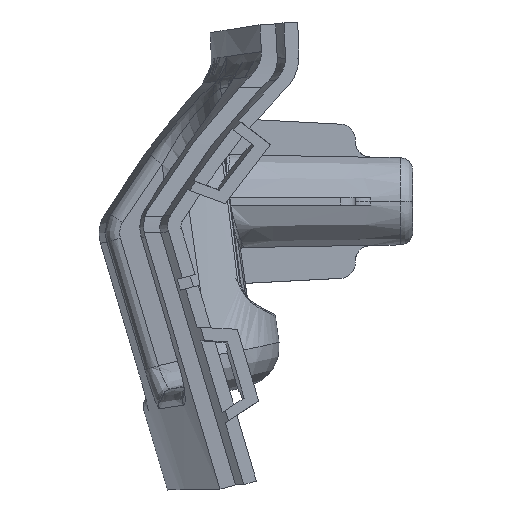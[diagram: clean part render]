
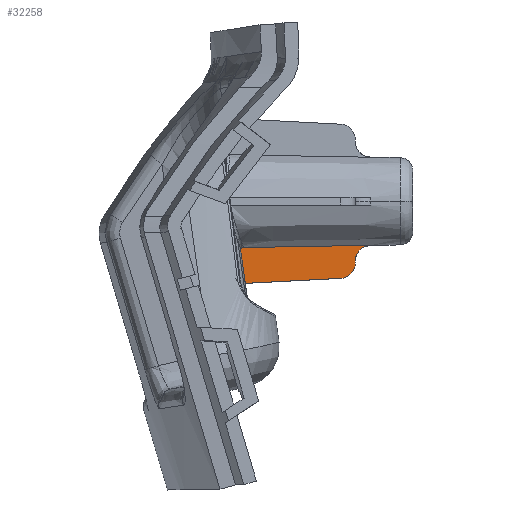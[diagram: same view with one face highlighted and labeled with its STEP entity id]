
A CAD part, front view. The second image highlights one B-rep face of the part: STEP entity #32258.
In plain terms, the highlighted planar face has unit normal (0, -1, 0).
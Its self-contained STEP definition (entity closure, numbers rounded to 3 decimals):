
#31625=AXIS2_PLACEMENT_3D('Plane Axis2P3D',#31622,#31623,#31624) ;
#26041=CARTESIAN_POINT('Vertex',(-528.207,-767.668,443.85)) ;
#26045=CARTESIAN_POINT('Control Point',(-529.109,-767.668,450.191)) ;
#26046=CARTESIAN_POINT('Control Point',(-528.207,-767.668,443.85)) ;
#26047=CARTESIAN_POINT('Vertex',(-529.109,-767.668,450.191)) ;
#31622=CARTESIAN_POINT('Axis2P3D Location',(-456.949,-767.668,458.952)) ;
#32163=CARTESIAN_POINT('Vertex',(-509.792,-767.668,444.815)) ;
#32166=CARTESIAN_POINT('Line Origine',(-519.,-767.668,444.332)) ;
#32179=CARTESIAN_POINT('Control Point',(-528.623,-767.668,450.764)) ;
#32180=CARTESIAN_POINT('Control Point',(-528.691,-767.668,450.762)) ;
#32181=CARTESIAN_POINT('Control Point',(-528.759,-767.668,450.749)) ;
#32182=CARTESIAN_POINT('Control Point',(-528.824,-767.668,450.725)) ;
#32183=CARTESIAN_POINT('Control Point',(-528.943,-767.668,450.655)) ;
#32184=CARTESIAN_POINT('Control Point',(-529.032,-767.668,450.55)) ;
#32185=CARTESIAN_POINT('Control Point',(-529.067,-767.668,450.491)) ;
#32186=CARTESIAN_POINT('Control Point',(-529.104,-767.668,450.394)) ;
#32187=CARTESIAN_POINT('Control Point',(-529.115,-767.668,450.293)) ;
#32188=CARTESIAN_POINT('Control Point',(-529.116,-767.668,450.258)) ;
#32189=CARTESIAN_POINT('Control Point',(-529.114,-767.668,450.224)) ;
#32190=CARTESIAN_POINT('Control Point',(-529.109,-767.668,450.191)) ;
#32191=CARTESIAN_POINT('Vertex',(-528.623,-767.668,450.764)) ;
#32195=CARTESIAN_POINT('Control Point',(-509.792,-767.668,444.815)) ;
#32196=CARTESIAN_POINT('Control Point',(-509.453,-767.668,444.833)) ;
#32197=CARTESIAN_POINT('Control Point',(-509.117,-767.668,444.898)) ;
#32198=CARTESIAN_POINT('Control Point',(-508.792,-767.668,445.012)) ;
#32199=CARTESIAN_POINT('Control Point',(-508.183,-767.668,445.327)) ;
#32200=CARTESIAN_POINT('Control Point',(-507.685,-767.668,445.798)) ;
#32201=CARTESIAN_POINT('Control Point',(-507.472,-767.668,446.068)) ;
#32202=CARTESIAN_POINT('Control Point',(-507.181,-767.668,446.567)) ;
#32203=CARTESIAN_POINT('Control Point',(-507.016,-767.668,447.117)) ;
#32204=CARTESIAN_POINT('Control Point',(-506.971,-767.668,447.346)) ;
#32205=CARTESIAN_POINT('Control Point',(-506.949,-767.668,447.579)) ;
#32206=CARTESIAN_POINT('Control Point',(-506.949,-767.668,447.811)) ;
#32207=CARTESIAN_POINT('Vertex',(-506.949,-767.668,447.811)) ;
#32210=CARTESIAN_POINT('Line Origine',(-506.949,-767.668,447.999)) ;
#32214=CARTESIAN_POINT('Vertex',(-506.949,-767.668,448.187)) ;
#32218=CARTESIAN_POINT('Control Point',(-506.949,-767.668,448.187)) ;
#32219=CARTESIAN_POINT('Control Point',(-506.949,-767.668,448.527)) ;
#32220=CARTESIAN_POINT('Control Point',(-506.901,-767.668,448.867)) ;
#32221=CARTESIAN_POINT('Control Point',(-506.805,-767.668,449.198)) ;
#32222=CARTESIAN_POINT('Control Point',(-506.523,-767.668,449.824)) ;
#32223=CARTESIAN_POINT('Control Point',(-506.078,-767.668,450.347)) ;
#32224=CARTESIAN_POINT('Control Point',(-505.821,-767.668,450.575)) ;
#32225=CARTESIAN_POINT('Control Point',(-505.32,-767.668,450.904)) ;
#32226=CARTESIAN_POINT('Control Point',(-504.757,-767.668,451.101)) ;
#32227=CARTESIAN_POINT('Control Point',(-504.508,-767.668,451.159)) ;
#32228=CARTESIAN_POINT('Control Point',(-504.255,-767.668,451.191)) ;
#32229=CARTESIAN_POINT('Control Point',(-504.001,-767.668,451.195)) ;
#32230=CARTESIAN_POINT('Vertex',(-504.001,-767.668,451.195)) ;
#32233=CARTESIAN_POINT('Line Origine',(-505.475,-767.668,451.169)) ;
#32237=CARTESIAN_POINT('Vertex',(-506.949,-767.668,451.143)) ;
#32241=CARTESIAN_POINT('Control Point',(-506.949,-767.668,451.143)) ;
#32242=CARTESIAN_POINT('Control Point',(-511.284,-767.668,451.067)) ;
#32243=CARTESIAN_POINT('Control Point',(-515.618,-767.668,450.991)) ;
#32244=CARTESIAN_POINT('Control Point',(-519.953,-767.668,450.916)) ;
#32245=CARTESIAN_POINT('Control Point',(-524.288,-767.668,450.84)) ;
#32246=CARTESIAN_POINT('Control Point',(-528.623,-767.668,450.764)) ;
#31623=DIRECTION('Axis2P3D Direction',(0.,1.,0.)) ;
#31624=DIRECTION('Axis2P3D XDirection',(0.,0.,-1.)) ;
#32167=DIRECTION('Vector Direction',(-0.999,0.,-0.052)) ;
#32211=DIRECTION('Vector Direction',(0.,0.,1.)) ;
#32234=DIRECTION('Vector Direction',(1.,0.,0.018)) ;
#32168=VECTOR('Line Direction',#32167,1.) ;
#32212=VECTOR('Line Direction',#32211,1.) ;
#32235=VECTOR('Line Direction',#32234,1.) ;
#32249=ORIENTED_EDGE('',*,*,#32193,.T.) ;
#32250=ORIENTED_EDGE('',*,*,#26049,.T.) ;
#32251=ORIENTED_EDGE('',*,*,#32170,.F.) ;
#32252=ORIENTED_EDGE('',*,*,#32209,.F.) ;
#32253=ORIENTED_EDGE('',*,*,#32216,.T.) ;
#32254=ORIENTED_EDGE('',*,*,#32232,.T.) ;
#32255=ORIENTED_EDGE('',*,*,#32239,.F.) ;
#32256=ORIENTED_EDGE('',*,*,#32247,.T.) ;
#32258=ADVANCED_FACE('\X2\524D\X0\  \X2\9970677F\X0\',(#32257),#31626,.F.) ;
#26044=B_SPLINE_CURVE_WITH_KNOTS('',1,(#26045,#26046),.UNSPECIFIED.,.F.,.U.,(2,2),(33.253,39.657),.UNSPECIFIED.) ;
#32178=B_SPLINE_CURVE_WITH_KNOTS('',5,(#32179,#32180,#32181,#32182,#32183,#32184,#32185,#32186,#32187,#32188,#32189,#32190),.UNSPECIFIED.,.F.,.U.,(6,3,3,6),(0.,0.502,1.003,1.253),.UNSPECIFIED.) ;
#32194=B_SPLINE_CURVE_WITH_KNOTS('',5,(#32195,#32196,#32197,#32198,#32199,#32200,#32201,#32202,#32203,#32204,#32205,#32206),.UNSPECIFIED.,.F.,.U.,(6,3,3,6),(0.,2.4,4.8,6.442),.UNSPECIFIED.) ;
#32217=B_SPLINE_CURVE_WITH_KNOTS('',5,(#32218,#32219,#32220,#32221,#32222,#32223,#32224,#32225,#32226,#32227,#32228,#32229),.UNSPECIFIED.,.F.,.U.,(6,3,3,6),(0.,2.47,4.934,6.774),.UNSPECIFIED.) ;
#32240=B_SPLINE_CURVE_WITH_KNOTS('',5,(#32241,#32242,#32243,#32244,#32245,#32246),.UNSPECIFIED.,.F.,.U.,(6,6),(0.,30.656),.UNSPECIFIED.) ;
#26049=EDGE_CURVE('',#26048,#26042,#26044,.T.) ;
#32170=EDGE_CURVE('',#32164,#26042,#32169,.T.) ;
#32193=EDGE_CURVE('',#32192,#26048,#32178,.T.) ;
#32209=EDGE_CURVE('',#32208,#32164,#32194,.F.) ;
#32216=EDGE_CURVE('',#32208,#32215,#32213,.T.) ;
#32232=EDGE_CURVE('',#32215,#32231,#32217,.T.) ;
#32239=EDGE_CURVE('',#32238,#32231,#32236,.T.) ;
#32247=EDGE_CURVE('',#32238,#32192,#32240,.T.) ;
#32248=EDGE_LOOP('',(#32249,#32250,#32251,#32252,#32253,#32254,#32255,#32256)) ;
#32257=FACE_OUTER_BOUND('',#32248,.T.) ;
#32169=LINE('Line',#32166,#32168) ;
#32213=LINE('Line',#32210,#32212) ;
#32236=LINE('Line',#32233,#32235) ;
#31626=PLANE('',#31625) ;
#26042=VERTEX_POINT('',#26041) ;
#26048=VERTEX_POINT('',#26047) ;
#32164=VERTEX_POINT('',#32163) ;
#32192=VERTEX_POINT('',#32191) ;
#32208=VERTEX_POINT('',#32207) ;
#32215=VERTEX_POINT('',#32214) ;
#32231=VERTEX_POINT('',#32230) ;
#32238=VERTEX_POINT('',#32237) ;
